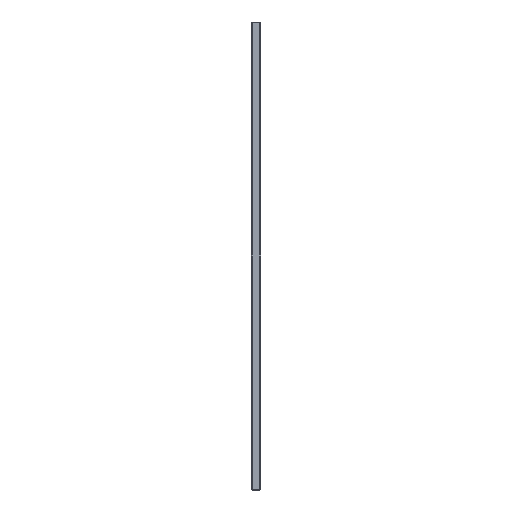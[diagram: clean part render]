
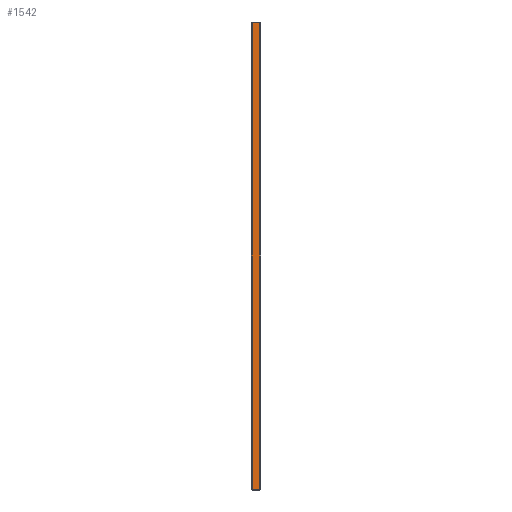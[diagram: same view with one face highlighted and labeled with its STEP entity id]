
A CAD part, left-side view. The second image highlights one B-rep face of the part: STEP entity #1542.
In plain terms, the highlighted planar face has unit normal (-1, 0, 0).
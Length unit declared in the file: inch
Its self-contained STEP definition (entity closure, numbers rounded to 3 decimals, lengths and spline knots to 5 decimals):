
#69 = VERTEX_POINT ( 'NONE', #921 ) ;
#100 = VECTOR ( 'NONE', #1025, 39.37008 ) ;
#121 = VECTOR ( 'NONE', #168, 39.37008 ) ;
#125 = VERTEX_POINT ( 'NONE', #1524 ) ;
#145 = LINE ( 'NONE', #1040, #100 ) ;
#168 = DIRECTION ( 'NONE',  ( 0., -1., 0. ) ) ;
#196 = DIRECTION ( 'NONE',  ( 0., 0., -1. ) ) ;
#347 = DIRECTION ( 'NONE',  ( 1., 0., 0. ) ) ;
#359 = CARTESIAN_POINT ( 'NONE',  ( -11.8125, 0.5, 11.7625 ) ) ;
#508 = FACE_OUTER_BOUND ( 'NONE', #1950, .T. ) ;
#523 = DIRECTION ( 'NONE',  ( 0., 1., 0. ) ) ;
#570 = CARTESIAN_POINT ( 'NONE',  ( -11.8125, 0.45, -11.8125 ) ) ;
#684 = AXIS2_PLACEMENT_3D ( 'NONE', #1638, #347, #196 ) ;
#693 = CARTESIAN_POINT ( 'NONE',  ( -11.8125, 0.05, -11.7625 ) ) ;
#694 = PLANE ( 'NONE',  #684 ) ;
#878 = ORIENTED_EDGE ( 'NONE', *, *, #1516, .T. ) ;
#885 = ORIENTED_EDGE ( 'NONE', *, *, #1476, .T. ) ;
#921 = CARTESIAN_POINT ( 'NONE',  ( -11.8125, 0.05, 11.7625 ) ) ;
#996 = ORIENTED_EDGE ( 'NONE', *, *, #1987, .T. ) ;
#1025 = DIRECTION ( 'NONE',  ( 0., 0., 1. ) ) ;
#1040 = CARTESIAN_POINT ( 'NONE',  ( -11.8125, 0.05, -11.8125 ) ) ;
#1126 = CARTESIAN_POINT ( 'NONE',  ( -11.8125, 0.5, -11.7625 ) ) ;
#1209 = LINE ( 'NONE', #359, #1775 ) ;
#1219 = DIRECTION ( 'NONE',  ( 0., 0., -1. ) ) ;
#1233 = LINE ( 'NONE', #1126, #121 ) ;
#1303 = CARTESIAN_POINT ( 'NONE',  ( -11.8125, 0.45, 11.7625 ) ) ;
#1315 = ORIENTED_EDGE ( 'NONE', *, *, #1609, .T. ) ;
#1448 = VECTOR ( 'NONE', #1219, 39.37008 ) ;
#1476 = EDGE_CURVE ( 'NONE', #125, #1947, #1233, .T. ) ;
#1489 = VERTEX_POINT ( 'NONE', #1303 ) ;
#1516 = EDGE_CURVE ( 'NONE', #69, #1489, #1209, .T. ) ;
#1524 = CARTESIAN_POINT ( 'NONE',  ( -11.8125, 0.45, -11.7625 ) ) ;
#1542 = ADVANCED_FACE ( 'Placement Plane', ( #508 ), #694, .F. ) ;
#1609 = EDGE_CURVE ( 'NONE', #1947, #69, #145, .T. ) ;
#1638 = CARTESIAN_POINT ( 'NONE',  ( -11.8125, 0.5, -11.8125 ) ) ;
#1705 = LINE ( 'NONE', #570, #1448 ) ;
#1775 = VECTOR ( 'NONE', #523, 39.37008 ) ;
#1947 = VERTEX_POINT ( 'NONE', #693 ) ;
#1950 = EDGE_LOOP ( 'NONE', ( #996, #885, #1315, #878 ) ) ;
#1987 = EDGE_CURVE ( 'NONE', #1489, #125, #1705, .T. ) ;
